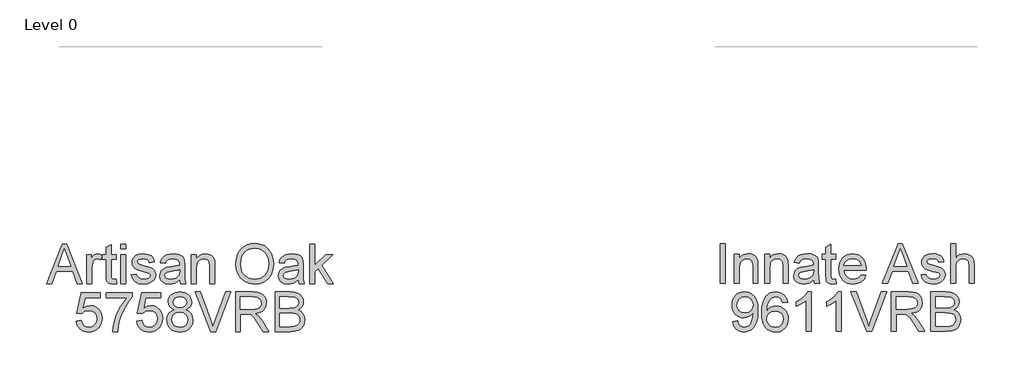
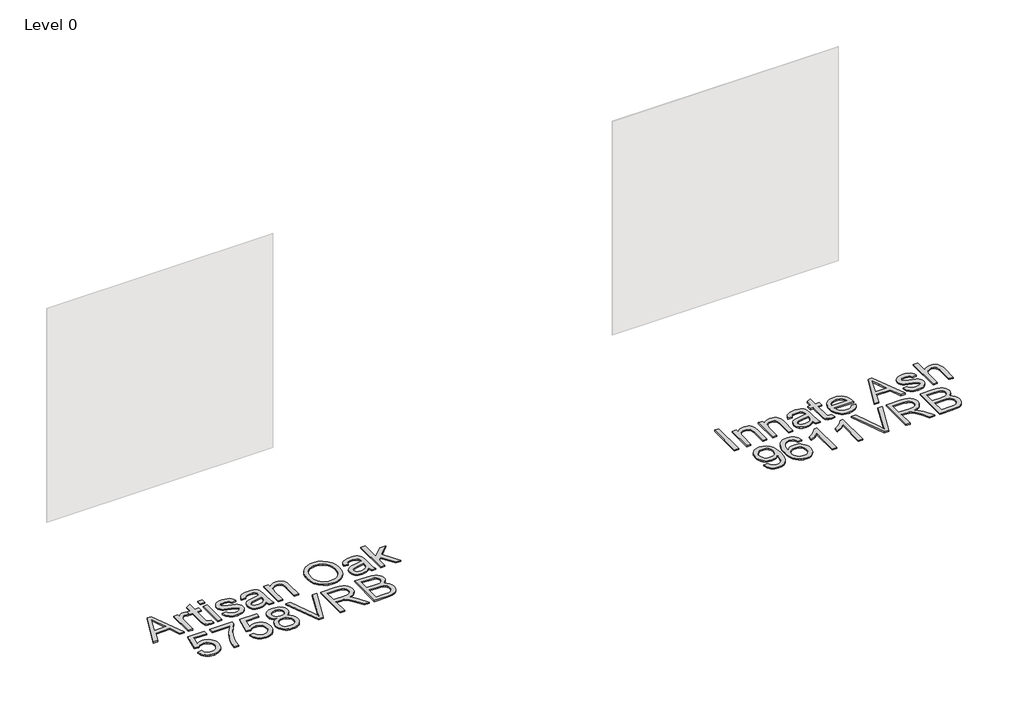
# One storey, part 15 of 43: 2 proxies.
"""IFC4 building model written with IfcOpenShell, lengths in millimetres."""

from ifc_helpers import new_model, si_unit, origin, origin_with_axes, place, context, project, spatial, polyline, outline, extrude, element, save

model = new_model("IFC4")

# Units and contexts
model_context = context("Model", 3, world=origin())
ifc_project = project(units=[si_unit("LENGTHUNIT", "METRE", prefix="MILLI")], contexts=[model_context])

# Site, building, storey
site = spatial("IfcSite", under=ifc_project)
building = spatial("IfcBuilding", under=site)
storey = spatial("IfcBuildingStorey", under=building, Name="Level 0", Elevation=0.0)

# Proxies
placement = place(None, origin())
element("IfcBuildingElementProxy", 1, Name="300mm Arial", ObjectType="300mm Arial", at=placement, inside=storey, context=model_context, shape_type="SweptSolid", body=[
    extrude(outline(polyline([(4452.3914105, -42030.0303751), (4572.6888229, -41728.6614447), (4604.7681329, -41728.6614447), (4725.0655453, -42030.0303751), (4685.2607134, -42030.0303751), (4650.7533823, -41935.8525844), (4526.6299971, -41935.8525844), (4492.1962424, -42030.0303751), (4452.3914105, -42030.0303751)]), holes=[polyline([(4540.4623601, -41898.181468), (4636.9945957, -41898.181468), (4609.8449044, -41824.0900342), (4588.7284779, -41766.332561), (4569.9664961, -41817.6153111), (4540.4623601, -41898.181468)])]), origin_with_axes(), (0.0, 0.0, 1.0), 10.0),
    extrude(outline(polyline([(4981.9207543, -41998.6132527), (4986.6296439, -42031.1340211), (4958.449883, -42034.7392647), (4940.368483, -42033.1757662), (4926.8856079, -42028.4852707), (4917.3574642, -42021.2563895), (4911.1402585, -42012.0777338), (4907.7189559, -41996.3139903), (4906.5785217, -41969.3298459), (4906.5785217, -41846.3836831), (4878.3251845, -41846.3836831), (4878.3251845, -41815.6287483), (4878.3251845, -41808.7125668), (4906.5785217, -41808.7125668), (4906.5785217, -41754.9282191), (4944.249638, -41732.781723), (4944.249638, -41808.7125668), (4981.9207543, -41808.7125668), (4981.9207543, -41846.3836831), (4944.249638, -41846.3836831), (4944.249638, -41968.2261999), (4946.2362008, -41987.6503693), (4952.6741357, -41994.5297626), (4965.5132173, -41997.0681484), (4981.9207543, -41998.6132527)])), origin_with_axes(), (0.0, 0.0, 1.0), 10.0),
    extrude(outline(polyline([(4760.602946, -42030.0303751), (4760.602946, -41808.7125668), (4793.5651728, -41808.7125668), (4793.5651728, -41841.4540644), (4805.7420668, -41822.4713534), (4816.9624677, -41811.2877408), (4828.2196567, -41805.8246932), (4840.5069154, -41804.0036773), (4859.2688971, -41806.909945), (4878.3251845, -41815.6287483), (4865.7436203, -41849.4003155), (4852.4998684, -41843.6061741), (4839.2561166, -41841.6747936), (4828.0081246, -41843.5325977), (4817.9557491, -41849.1060099), (4809.834754, -41857.971966), (4804.3809035, -41869.7074016), (4799.8007726, -41890.7502517), (4798.2740623, -41913.7060882), (4798.2740623, -42030.0303751), (4760.602946, -42030.0303751)])), origin_with_axes(), (0.0, 0.0, 1.0), 10.0),
    extrude(outline(polyline([(5019.5918706, -41766.332561), (5019.5918706, -41728.6614447), (5057.2629869, -41728.6614447), (5057.2629869, -41766.332561), (5019.5918706, -41766.332561)])), origin_with_axes(), (0.0, 0.0, 1.0), 10.0),
    extrude(outline(polyline([(5019.5918706, -42030.0303751), (5019.5918706, -41808.7125668), (5057.2629869, -41808.7125668), (5057.2629869, -42030.0303751), (5019.5918706, -42030.0303751)])), origin_with_axes(), (0.0, 0.0, 1.0), 10.0),
    extrude(outline(polyline([(5099.6429928, -41964.1059216), (5137.3141091, -41959.397032), (5143.2554033, -41975.5102634), (5154.7517157, -41987.3560637), (5171.8766225, -41994.6401272), (5194.7037003, -41997.0681484), (5217.2548666, -41994.8424623), (5233.1105806, -41988.1654041), (5242.4915715, -41978.4901076), (5245.6185685, -41967.2697067), (5242.4731774, -41957.6679867), (5233.0370042, -41950.347135), (5194.2622419, -41939.6049807), (5137.5348383, -41921.1740927), (5123.1782434, -41911.9126635), (5112.77638, -41899.652996), (5106.4580067, -41885.1768395), (5104.3518823, -41869.2659432), (5106.0441395, -41854.6702251), (5111.120911, -41841.196547), (5119.1223444, -41829.3783379), (5129.5885872, -41819.7490267), (5153.5377051, -41808.6022022), (5185.9481089, -41804.0036773), (5210.4674438, -41805.8522843), (5231.7862055, -41811.3981054), (5248.9295064, -41820.0985146), (5260.9224595, -41831.4108859), (5268.8687106, -41846.172151), (5273.8719057, -41865.2192413), (5236.2007894, -41869.9281308), (5231.4459146, -41858.0731335), (5222.0373326, -41849.1427981), (5207.8830728, -41843.5417947), (5188.8911648, -41841.6747936), (5167.2597035, -41843.4590213), (5152.8387293, -41848.8117043), (5144.7269313, -41856.5372262), (5142.0229986, -41865.4399705), (5146.511159, -41876.4028539), (5160.5642512, -41884.716987), (5193.0114432, -41892.7368145), (5248.304107, -41910.4687267), (5262.9090222, -41918.9484067), (5273.9822703, -41930.5550836), (5280.9628312, -41945.3255457), (5283.2896848, -41963.2965812), (5280.558161, -41981.874622), (5272.3635895, -41999.3490167), (5259.0186701, -42014.3494051), (5240.8361025, -42025.5054266), (5218.8735474, -42032.4308051), (5194.1886655, -42034.7392647), (5156.2048495, -42030.2878925), (5128.4849412, -42016.9337761), (5109.9804769, -41994.8240682), (5099.6429928, -41964.1059216)])), origin_with_axes(), (0.0, 0.0, 1.0), 10.0),
    extrude(outline(polyline([(5466.9363768, -42001.7770379), (5448.9377502, -42017.2096876), (5430.4056947, -42027.3080484), (5410.917146, -42032.8814606), (5390.0490398, -42034.7392647), (5358.567538, -42030.2694984), (5335.3449871, -42016.8601997), (5321.0251804, -41996.4979313), (5316.2519115, -41971.1692559), (5318.0545333, -41955.5526652), (5323.4623987, -41941.3708143), (5331.8041229, -41929.2307084), (5342.4083214, -41919.739353), (5368.7854605, -41907.3785179), (5401.3798052, -41901.7131352), (5439.8970501, -41895.7534469), (5466.7156476, -41888.763689), (5466.9363768, -41880.3759795), (5464.3428087, -41863.5637723), (5456.5621045, -41852.5641006), (5439.1612861, -41844.3971204), (5414.9178627, -41841.6747936), (5392.4770609, -41843.4866124), (5376.805288, -41848.9220689), (5366.118316, -41858.9744444), (5358.6319174, -41874.6370204), (5320.9608011, -41869.9281308), (5327.4999036, -41849.3267391), (5337.2579735, -41833.1399313), (5351.1455188, -41820.7607022), (5370.0730474, -41811.5820464), (5393.222022, -41805.8982696), (5419.773905, -41804.0036773), (5445.2405361, -41805.6775404), (5465.4280606, -41810.6991296), (5480.6491781, -41818.2499075), (5491.2165885, -41827.5113368), (5498.2247405, -41838.9616639), (5502.7680831, -41853.0791354), (5504.6074931, -41886.0413622), (5504.6074931, -41932.9095284), (5506.5204795, -41998.3557353), (5514.0252722, -42030.0303751), (5476.3541558, -42030.0303751), (5466.9363768, -42001.7770379)]), holes=[polyline([(5466.9363768, -41926.4348053), (5406.1622712, -41937.9862999), (5373.7518674, -41944.093141), (5359.0733758, -41954.0259549), (5353.9230279, -41968.5205055), (5356.7281281, -41979.7225123), (5365.1434287, -41988.9011681), (5378.9849888, -41995.0264033), (5398.0688673, -41997.0681484), (5418.302377, -41994.8148711), (5436.181442, -41988.0550395), (5450.6759926, -41978.0946345), (5460.7559593, -41966.2396372), (5465.2257255, -41954.0259549), (5466.7156476, -41937.1033831), (5466.9363768, -41926.4348053)])]), origin_with_axes(), (0.0, 0.0, 1.0), 10.0),
    extrude(outline(polyline([(5556.405278, -42030.0303751), (5556.405278, -41808.7125668), (5594.0763943, -41808.7125668), (5594.0763943, -41839.6146544), (5607.1637963, -41824.0348519), (5622.8815545, -41812.9064216), (5641.229669, -41806.2293634), (5662.2081398, -41804.0036773), (5680.7769835, -41805.797102), (5697.7823287, -41811.1773762), (5711.9641797, -41819.4731152), (5722.0625404, -41830.0129343), (5733.3565177, -41857.7144486), (5735.3430805, -41894.1347661), (5735.3430805, -42030.0303751), (5697.6719641, -42030.0303751), (5697.6719641, -41899.2115376), (5693.3309566, -41865.8814289), (5687.325283, -41855.9578121), (5677.9902774, -41848.2598813), (5666.0249155, -41843.3210655), (5652.1281731, -41841.6747936), (5630.0644505, -41845.3720076), (5611.2564835, -41856.4636498), (5603.7401945, -41865.5181454), (5598.3714166, -41877.892776), (5594.0763943, -41912.6024423), (5594.0763943, -42030.0303751), (5556.405278, -42030.0303751)])), origin_with_axes(), (0.0, 0.0, 1.0), 10.0),
    extrude(outline(polyline([(5895.4453248, -41883.3190354), (5897.9561194, -41847.9701742), (5905.4885032, -41816.677212), (5918.0424763, -41789.4401488), (5935.6180386, -41766.2589846), (5957.162128, -41747.7499217), (5981.6216821, -41734.5291625), (6008.9967011, -41726.596707), (6039.2871849, -41723.9525551), (6078.8161053, -41728.9189621), (6114.2615355, -41743.8181829), (6143.6920951, -41767.6017539), (6165.1764036, -41799.2212113), (6178.3097908, -41837.149845), (6182.6875866, -41879.8609447), (6178.0798646, -41923.1422614), (6164.2566986, -41961.604324), (6141.9814438, -41993.2789638), (6112.0174553, -42016.1980121), (6076.8755277, -42030.1039515), (6039.0664557, -42034.7392647), (5998.93053, -42029.6165079), (5963.2827647, -42014.2482375), (5933.9257815, -41990.0232081), (5912.6622021, -41958.3301743), (5899.7495441, -41921.8638715), (5895.4453248, -41883.3190354)]), holes=[polyline([(5933.1164411, -41883.6869174), (5934.999537, -41908.6615064), (5940.6488249, -41930.8309951), (5950.0643047, -41950.1953836), (5963.2459765, -41966.754672), (5979.2695366, -41980.0168179), (5997.2106817, -41989.4897793), (6017.0694116, -41995.1735561), (6038.8457265, -41997.0681484), (6060.9945218, -41995.155162), (6081.0877766, -41989.4162029), (6099.1254906, -41979.851271), (6115.1076641, -41966.4603664), (6128.1927668, -41949.5515902), (6137.5392687, -41929.4330435), (6143.1471699, -41906.1047265), (6145.0164703, -41879.5666391), (6141.8158969, -41846.2181362), (6132.2141769, -41817.3945819), (6116.4596304, -41793.8225431), (6094.8005779, -41776.2285866), (6068.6717592, -41765.2749002), (6039.5079141, -41761.6236714), (6018.4880566, -41763.3826072), (5998.9857123, -41768.6594146), (5981.0008813, -41777.4540935), (5964.5335634, -41789.7666441), (5950.7885724, -41806.1902759), (5940.9707217, -41827.3181987), (5935.0800112, -41853.1504126), (5933.1164411, -41883.6869174)])]), origin_with_axes(), (0.0, 0.0, 1.0), 10.0),
    extrude(outline(polyline([(6371.0431681, -42001.7770379), (6353.0445415, -42017.2096876), (6334.512486, -42027.3080484), (6315.0239373, -42032.8814606), (6294.1558311, -42034.7392647), (6262.6743294, -42030.2694984), (6239.4517784, -42016.8601997), (6225.1319718, -41996.4979313), (6220.3587029, -41971.1692559), (6222.1613247, -41955.5526652), (6227.56919, -41941.3708143), (6235.9109142, -41929.2307084), (6246.5151128, -41919.739353), (6272.8922518, -41907.3785179), (6305.4865966, -41901.7131352), (6344.0038415, -41895.7534469), (6370.8224389, -41888.763689), (6371.0431681, -41880.3759795), (6368.4496001, -41863.5637723), (6360.6688959, -41852.5641006), (6343.2680775, -41844.3971204), (6319.024654, -41841.6747936), (6296.5838523, -41843.4866124), (6280.9120793, -41848.9220689), (6270.2251073, -41858.9744444), (6262.7387087, -41874.6370204), (6225.0675924, -41869.9281308), (6231.6066949, -41849.3267391), (6241.3647648, -41833.1399313), (6255.2523101, -41820.7607022), (6274.1798388, -41811.5820464), (6297.3288133, -41805.8982696), (6323.8806963, -41804.0036773), (6349.3473275, -41805.6775404), (6369.5348519, -41810.6991296), (6384.7559695, -41818.2499075), (6395.3233798, -41827.5113368), (6402.3315318, -41838.9616639), (6406.8748744, -41853.0791354), (6408.7142844, -41886.0413622), (6408.7142844, -41932.9095284), (6410.6272708, -41998.3557353), (6418.1320635, -42030.0303751), (6380.4609472, -42030.0303751), (6371.0431681, -42001.7770379)]), holes=[polyline([(6371.0431681, -41926.4348053), (6310.2690625, -41937.9862999), (6277.8586587, -41944.093141), (6263.1801671, -41954.0259549), (6258.0298192, -41968.5205055), (6260.8349194, -41979.7225123), (6269.2502201, -41988.9011681), (6283.0917801, -41995.0264033), (6302.1756586, -41997.0681484), (6322.4091684, -41994.8148711), (6340.2882333, -41988.0550395), (6354.7827839, -41978.0946345), (6364.8627506, -41966.2396372), (6369.3325168, -41954.0259549), (6370.8224389, -41937.1033831), (6371.0431681, -41926.4348053)])]), origin_with_axes(), (0.0, 0.0, 1.0), 10.0),
    extrude(outline(polyline([(6460.5120693, -42030.0303751), (6460.5120693, -41728.6614447), (6498.1831857, -41728.6614447), (6498.1831857, -41890.6030989), (6582.6488917, -41808.7125668), (6634.7409823, -41808.7125668), (6549.2452066, -41891.6331685), (6639.4498718, -42030.0303751), (6595.4511852, -42030.0303751), (6522.2426681, -41917.8263666), (6498.1831857, -41941.1500851), (6498.1831857, -42030.0303751), (6460.5120693, -42030.0303751)])), origin_with_axes(), (0.0, 0.0, 1.0), 10.0),
    extrude(outline(polyline([(4678.1973791, -42315.9037065), (4715.8684954, -42311.194817), (4722.7846769, -42333.8103626), (4734.8512064, -42350.0063675), (4752.0129014, -42359.7460433), (4774.2145799, -42362.9926019), (4801.2171183, -42358.4768504), (4821.450628, -42344.9295959), (4834.0873746, -42323.914337), (4838.2996234, -42296.994572), (4834.354089, -42271.6475025), (4822.5174858, -42252.2601213), (4802.6978433, -42239.9544686), (4774.803191, -42235.8525844), (4756.5286529, -42237.4896592), (4741.7305997, -42242.4008839), (4720.577385, -42259.397032), (4682.9062687, -42254.6881425), (4715.8684954, -42099.2947877), (4861.8440711, -42099.2947877), (4861.8440711, -42136.9659041), (4746.3291246, -42136.9659041), (4730.2158932, -42219.9600822), (4757.1264612, -42203.6261216), (4785.3246161, -42198.181468), (4803.6704314, -42199.8691267), (4820.521726, -42204.9321027), (4835.8785, -42213.3703959), (4849.7407535, -42225.1840065), (4861.2163725, -42239.650966), (4869.4132432, -42256.0493059), (4874.3313656, -42274.3790263), (4875.9707397, -42294.6401272), (4870.0662337, -42332.3112435), (4862.6856012, -42349.1050566), (4852.3527156, -42364.5377063), (4836.6993367, -42380.3428365), (4818.4339957, -42391.6322152), (4797.5566924, -42398.4058424), (4774.0674271, -42400.6637182), (4737.0676954, -42394.8603797), (4721.3890246, -42387.6062066), (4707.5911505, -42377.4503643), (4696.110933, -42364.8986905), (4687.3852319, -42350.4570229), (4678.1973791, -42315.9037065)])), origin_with_axes(), (0.0, 0.0, 1.0), 10.0),
    extrude(outline(polyline([(4908.9329665, -42136.9659041), (4908.9329665, -42099.2947877), (5106.7063271, -42099.2947877), (5106.7063271, -42129.7554169), (5078.5173692, -42165.4307734), (5050.6043228, -42210.7998205), (5025.9838203, -42261.7238857), (5007.672494, -42314.0642965), (4998.6961733, -42353.2253349), (4993.6929782, -42395.9548287), (4956.0218619, -42395.9548287), (4960.096155, -42357.1248841), (4970.9946591, -42310.9740878), (4988.4230686, -42262.0549795), (5012.0870779, -42214.9200988), (5039.7150158, -42172.3101667), (5069.0352108, -42136.9659041), (4908.9329665, -42136.9659041)])), origin_with_axes(), (0.0, 0.0, 1.0), 10.0),
    extrude(outline(polyline([(5139.6685539, -42315.9037065), (5177.3396702, -42311.194817), (5184.2558517, -42333.8103626), (5196.3223811, -42350.0063675), (5213.4840762, -42359.7460433), (5235.6857546, -42362.9926019), (5262.6882931, -42358.4768504), (5282.9218028, -42344.9295959), (5295.5585493, -42323.914337), (5299.7707982, -42296.994572), (5295.8252638, -42271.6475025), (5283.9886606, -42252.2601213), (5264.1690181, -42239.9544686), (5236.2743658, -42235.8525844), (5217.9998277, -42237.4896592), (5203.2017744, -42242.4008839), (5182.0485597, -42259.397032), (5144.3774434, -42254.6881425), (5177.3396702, -42099.2947877), (5323.3152459, -42099.2947877), (5323.3152459, -42136.9659041), (5207.8002994, -42136.9659041), (5191.687068, -42219.9600822), (5218.5976359, -42203.6261216), (5246.7957909, -42198.181468), (5265.1416061, -42199.8691267), (5281.9929007, -42204.9321027), (5297.3496748, -42213.3703959), (5311.2119282, -42225.1840065), (5322.6875472, -42239.650966), (5330.8844179, -42256.0493059), (5335.8025403, -42274.3790263), (5337.4419145, -42294.6401272), (5331.5374084, -42332.3112435), (5324.1567759, -42349.1050566), (5313.8238904, -42364.5377063), (5298.1705115, -42380.3428365), (5279.9051704, -42391.6322152), (5259.0278672, -42398.4058424), (5235.5386018, -42400.6637182), (5198.5388701, -42394.8603797), (5182.8601994, -42387.6062066), (5169.0623253, -42377.4503643), (5157.5821078, -42364.8986905), (5148.8564067, -42350.4570229), (5139.6685539, -42315.9037065)])), origin_with_axes(), (0.0, 0.0, 1.0), 10.0),
    extrude(outline(polyline([(5425.2921349, -42229.9664724), (5405.1230045, -42220.0336586), (5390.9687448, -42206.5691775), (5382.6086264, -42189.8489409), (5379.8219203, -42170.14886), (5381.3394335, -42154.7851882), (5385.8919732, -42140.6999063), (5393.4795394, -42127.8930143), (5404.102132, -42116.3645123), (5417.2493148, -42106.8363686), (5432.4106515, -42100.0305517), (5468.7757867, -42094.5858982), (5505.3616512, -42100.1593104), (5520.6885348, -42107.1260757), (5534.0380527, -42116.8795471), (5544.8537834, -42128.6333769), (5552.5793053, -42141.6012172), (5557.2146184, -42155.7830681), (5558.7597228, -42171.1789296), (5556.0098049, -42190.244414), (5547.7600511, -42206.6795421), (5533.918491, -42220.0612497), (5514.3931542, -42229.9664724), (5537.5789169, -42241.9134402), (5554.4555034, -42259.5073966), (5564.7470022, -42281.9022131), (5568.1775018, -42308.251761), (5566.4760476, -42327.0413339), (5561.3716849, -42344.2674083), (5552.8644138, -42359.9299843), (5540.9542342, -42374.0290617), (5526.2665455, -42385.6817239), (5509.4267472, -42394.0050541), (5490.4348392, -42398.9990522), (5469.2908215, -42400.6637182), (5448.1468039, -42398.9921544), (5429.1548959, -42393.9774629), (5412.3150975, -42385.6196439), (5397.6274089, -42373.9186971), (5385.7172293, -42359.7207514), (5377.2099581, -42343.8719352), (5372.1055955, -42326.3722485), (5370.4041412, -42307.2216914), (5373.9725966, -42279.851271), (5384.6779627, -42257.3368929), (5401.9684164, -42240.4511093), (5425.2921349, -42229.9664724)]), holes=[polyline([(5417.4930366, -42171.252506), (5420.8315657, -42187.6968312), (5430.847153, -42200.8302184), (5447.245493, -42209.4386571), (5469.7322799, -42212.3081367), (5491.694835, -42209.4570512), (5507.8448546, -42200.9037948), (5517.7776685, -42188.211866), (5521.0886065, -42172.9447632), (5517.6673039, -42157.0982462), (5507.4033962, -42143.9924502), (5491.0326475, -42135.1908734), (5469.2908215, -42132.2570145), (5447.4110399, -42135.1264941), (5431.0678822, -42143.7349328), (5420.886748, -42156.3532852), (5417.4930366, -42171.252506)]), polyline([(5408.0752575, -42305.8973162), (5414.3660397, -42334.2610181), (5423.0756459, -42346.4287151), (5436.6229004, -42355.4878092), (5452.8464964, -42361.1164037), (5469.5851271, -42362.9926019), (5495.2265022, -42359.0470675), (5514.4667305, -42347.2104643), (5526.4964718, -42329.2854141), (5530.5063855, -42307.0745386), (5526.3677131, -42284.4865841), (5513.9516958, -42266.1660608), (5494.270009, -42254.0259549), (5468.3343284, -42249.979253), (5443.0516382, -42253.9707726), (5424.0045479, -42265.9453316), (5412.0575801, -42283.916367), (5408.0752575, -42305.8973162)])]), origin_with_axes(), (0.0, 0.0, 1.0), 10.0),
    extrude(outline(polyline([(5704.2938401, -42395.9548287), (5584.3643096, -42094.5858982), (5624.6841763, -42094.5858982), (5704.9560277, -42311.7098518), (5721.2164118, -42360.6381571), (5737.2560668, -42311.7098518), (5817.7486474, -42094.5858982), (5858.068514, -42094.5858982), (5743.2157552, -42395.9548287), (5704.2938401, -42395.9548287)])), origin_with_axes(), (0.0, 0.0, 1.0), 10.0),
    extrude(outline(polyline([(5893.09088, -42395.9548287), (5893.09088, -42094.5858982), (6022.9532243, -42094.5858982), (6057.8560286, -42096.6184462), (6083.2490833, -42102.7160903), (6101.8087299, -42113.9732794), (6116.2113101, -42131.4844623), (6125.4543452, -42153.1986971), (6128.5353569, -42177.0650415), (6123.4309942, -42206.7531185), (6108.1179062, -42231.364424), (6096.518127, -42241.3938069), (6082.1362403, -42249.4090359), (6045.026144, -42259.397032), (6066.4368761, -42275.5102634), (6096.9710817, -42314.2850257), (6147.2237623, -42395.9548287), (6103.4458048, -42395.9548287), (6064.2295841, -42333.4884659), (6035.9026705, -42292.1385296), (6016.0002546, -42272.6039957), (5998.0844014, -42265.4302968), (5976.2322109, -42264.1059216), (5930.7619963, -42264.1059216), (5930.7619963, -42395.9548287), (5893.09088, -42395.9548287)]), holes=[polyline([(5930.7619963, -42226.4348053), (6015.0805496, -42226.4348053), (6039.2963819, -42225.101233), (6058.0859548, -42221.1005163), (6072.2310175, -42214.1659407), (6082.5133193, -42204.0307918), (6088.7765103, -42191.7711243), (6090.8642406, -42178.4629931), (6086.881918, -42160.0872874), (6074.9349502, -42145.2800371), (6054.3795437, -42135.5127702), (6024.5719051, -42132.2570145), (5930.7619963, -42132.2570145), (5930.7619963, -42226.4348053)])]), origin_with_axes(), (0.0, 0.0, 1.0), 10.0),
    extrude(outline(polyline([(6194.4598104, -42395.9548287), (6194.4598104, -42094.5858982), (6309.4597221, -42094.5858982), (6341.0883767, -42096.8023872), (6365.7824556, -42103.4518543), (6384.7099842, -42114.6998463), (6399.038988, -42130.7119101), (6408.0612939, -42149.5474683), (6411.0687292, -42169.2659432), (6408.5395405, -42187.4117226), (6400.9519743, -42204.4722502), (6388.2508484, -42219.3990621), (6370.3809805, -42231.1436948), (6391.7273333, -42242.2905193), (6407.5002738, -42259.2498792), (6417.2399497, -42280.8997347), (6420.4865083, -42306.1180454), (6418.2700193, -42327.1333044), (6411.6205522, -42346.6218531), (6401.6969354, -42363.194937), (6389.6579971, -42375.4638015), (6374.9151261, -42384.3481517), (6356.8797113, -42390.7676925), (6308.5768053, -42395.9548287), (6194.4598104, -42395.9548287)]), holes=[polyline([(6232.1309267, -42217.0170262), (6300.9248598, -42217.0170262), (6341.0975737, -42213.7796646), (6355.159863, -42208.1970554), (6365.2674208, -42199.836937), (6371.3650649, -42188.8280683), (6373.3976129, -42175.2992079), (6371.5030206, -42162.1658207), (6365.8192438, -42150.7246907), (6356.6037998, -42141.7943552), (6344.1142061, -42136.1933519), (6295.7009355, -42132.2570145), (6232.1309267, -42132.2570145), (6232.1309267, -42217.0170262)]), polyline([(6232.1309267, -42358.2837124), (6309.3861457, -42358.2837124), (6337.3451774, -42356.8121844), (6360.9999897, -42348.6084159), (6376.6717626, -42331.8697851), (6381.2794846, -42320.042379), (6382.815392, -42306.4859274), (6381.0127702, -42290.740578), (6375.6049049, -42277.2025206), (6366.1595346, -42266.6167162), (6352.2443982, -42259.7281258), (6332.5351203, -42255.9481383), (6305.7073258, -42254.6881425), (6232.1309267, -42254.6881425), (6232.1309267, -42358.2837124)])]), origin_with_axes(), (0.0, 0.0, 1.0), 10.0),
])
element("IfcBuildingElementProxy", 2, Name="300mm Arial", ObjectType="300mm Arial", at=placement, inside=storey, context=model_context, shape_type="SweptSolid", body=[
    extrude(outline(polyline([(9588.7284779, -42029.0303751), (9588.7284779, -41727.6614447), (9626.3995942, -41727.6614447), (9626.3995942, -42029.0303751), (9588.7284779, -42029.0303751)])), origin_with_axes(), (0.0, 0.0, 1.0), 10.0),
    extrude(outline(polyline([(9697.0329373, -42029.0303751), (9697.0329373, -41807.7125668), (9734.7040536, -41807.7125668), (9734.7040536, -41838.6146544), (9747.7914556, -41823.0348519), (9763.5092138, -41811.9064216), (9781.8573283, -41805.2293634), (9802.8357991, -41803.0036773), (9821.4046428, -41804.797102), (9838.409988, -41810.1773762), (9852.5918389, -41818.4731152), (9862.6901997, -41829.0129343), (9873.9841769, -41856.7144486), (9875.9707397, -41893.1347661), (9875.9707397, -42029.0303751), (9838.2996234, -42029.0303751), (9838.2996234, -41898.2115376), (9833.9586159, -41864.8814289), (9827.9529423, -41854.9578121), (9818.6179367, -41847.2598813), (9806.6525748, -41842.3210655), (9792.7558324, -41840.6747936), (9770.6921098, -41844.3720076), (9751.8841427, -41855.4636498), (9744.3678537, -41864.5181454), (9738.9990759, -41876.892776), (9734.7040536, -41911.6024423), (9734.7040536, -42029.0303751), (9697.0329373, -42029.0303751)])), origin_with_axes(), (0.0, 0.0, 1.0), 10.0),
    extrude(outline(polyline([(9927.7685246, -42029.0303751), (9927.7685246, -41807.7125668), (9965.4396409, -41807.7125668), (9965.4396409, -41838.6146544), (9978.5270429, -41823.0348519), (9994.2448012, -41811.9064216), (10012.5929157, -41805.2293634), (10033.5713865, -41803.0036773), (10052.1402302, -41804.797102), (10069.1455754, -41810.1773762), (10083.3274263, -41818.4731152), (10093.4257871, -41829.0129343), (10104.7197643, -41856.7144486), (10106.7063271, -41893.1347661), (10106.7063271, -42029.0303751), (10069.0352108, -42029.0303751), (10069.0352108, -41898.2115376), (10064.6942032, -41864.8814289), (10058.6885297, -41854.9578121), (10049.353524, -41847.2598813), (10037.3881622, -41842.3210655), (10023.4914198, -41840.6747936), (10001.4276971, -41844.3720076), (9982.6197301, -41855.4636498), (9975.1034411, -41864.5181454), (9969.7346632, -41876.892776), (9965.4396409, -41911.6024423), (9965.4396409, -42029.0303751), (9927.7685246, -42029.0303751)])), origin_with_axes(), (0.0, 0.0, 1.0), 10.0),
    extrude(outline(polyline([(10299.7707982, -42000.7770379), (10281.7721716, -42016.2096876), (10263.240116, -42026.3080484), (10243.7515673, -42031.8814606), (10222.8834612, -42033.7392647), (10191.4019594, -42029.2694984), (10168.1794085, -42015.8601997), (10153.8596018, -41995.4979313), (10149.0863329, -41970.1692559), (10150.8889547, -41954.5526652), (10156.29682, -41940.3708143), (10164.6385443, -41928.2307084), (10175.2427428, -41918.739353), (10201.6198819, -41906.3785179), (10234.2142266, -41900.7131352), (10272.7314715, -41894.7534469), (10299.550069, -41887.763689), (10299.7707982, -41879.3759795), (10297.1772301, -41862.5637723), (10289.3965259, -41851.5641006), (10271.9957075, -41843.3971204), (10247.752284, -41840.6747936), (10225.3114823, -41842.4866124), (10209.6397093, -41847.9220689), (10198.9527374, -41857.9744444), (10191.4663388, -41873.6370204), (10153.7952225, -41868.9281308), (10160.3343249, -41848.3267391), (10170.0923949, -41832.1399313), (10183.9799402, -41819.7607022), (10202.9074688, -41810.5820464), (10226.0564434, -41804.8982696), (10252.6083264, -41803.0036773), (10278.0749575, -41804.6775404), (10298.262482, -41809.6991296), (10313.4835995, -41817.2499075), (10324.0510098, -41826.5113368), (10331.0591619, -41837.9616639), (10335.6025045, -41852.0791354), (10337.4419145, -41885.0413622), (10337.4419145, -41931.9095284), (10339.3549008, -41997.3557353), (10346.8596935, -42029.0303751), (10309.1885772, -42029.0303751), (10299.7707982, -42000.7770379)]), holes=[polyline([(10299.7707982, -41925.4348053), (10238.9966926, -41936.9862999), (10206.5862888, -41943.093141), (10191.9077972, -41953.0259549), (10186.7574492, -41967.5205055), (10189.5625495, -41978.7225123), (10197.9778501, -41987.9011681), (10211.8194102, -41994.0264033), (10230.9032887, -41996.0681484), (10251.1367984, -41993.8148711), (10269.0158634, -41987.0550395), (10283.510414, -41977.0946345), (10293.5903806, -41965.2396372), (10298.0601469, -41953.0259549), (10299.550069, -41936.1033831), (10299.7707982, -41925.4348053)])]), origin_with_axes(), (0.0, 0.0, 1.0), 10.0),
    extrude(outline(polyline([(10469.2908215, -41997.6132527), (10473.9997111, -42030.1340211), (10445.8199503, -42033.7392647), (10427.7385502, -42032.1757662), (10414.2556751, -42027.4852707), (10404.7275314, -42020.2563895), (10398.5103257, -42011.0777338), (10395.0890231, -41995.3139903), (10393.9485889, -41968.3298459), (10393.9485889, -41845.3836831), (10365.6952517, -41845.3836831), (10365.6952517, -41807.7125668), (10393.9485889, -41807.7125668), (10393.9485889, -41753.9282191), (10431.6197052, -41731.781723), (10431.6197052, -41807.7125668), (10469.2908215, -41807.7125668), (10469.2908215, -41845.3836831), (10431.6197052, -41845.3836831), (10431.6197052, -41967.2261999), (10433.606268, -41986.6503693), (10440.0442029, -41993.5297626), (10452.8832846, -41996.0681484), (10469.2908215, -41997.6132527)])), origin_with_axes(), (0.0, 0.0, 1.0), 10.0),
    extrude(outline(polyline([(10661.9138342, -41963.1059216), (10698.8491865, -41967.8148111), (10685.5410554, -41995.6450841), (10664.3050672, -42016.4488109), (10635.6194686, -42029.4166512), (10599.9625062, -42033.7392647), (10576.588204, -42031.8745628), (10555.7614845, -42026.2804572), (10537.4823479, -42016.9569479), (10521.7507941, -42003.9040349), (10509.1002519, -41987.4850016), (10500.0641504, -41968.0631315), (10494.6424895, -41945.6384246), (10492.8352692, -41920.2108809), (10494.6608836, -41893.9211139), (10500.1377268, -41870.7491467), (10509.2657988, -41850.6949794), (10522.0450997, -41833.7586121), (10537.7352667, -41820.3033281), (10555.5959376, -41810.692411), (10575.6271122, -41804.9258607), (10597.8287907, -41803.0036773), (10619.3153984, -41804.9212622), (10638.7464656, -41810.6740169), (10656.1219921, -41820.2619414), (10671.4419779, -41833.6850357), (10683.9476665, -41850.5846148), (10692.8803012, -41870.6019939), (10698.239882, -41893.7371729), (10700.0264089, -41919.9901518), (10699.8056797, -41930.1436948), (10530.5063855, -41930.1436948), (10537.0270939, -41958.3418497), (10552.1746351, -41979.0720002), (10574.0360226, -41991.8191113), (10600.6982702, -41996.0681484), (10620.747839, -41994.0999797), (10637.6336225, -41988.1954737), (10651.355621, -41977.9867483), (10661.9138342, -41963.1059216)]), holes=[polyline([(10530.5063855, -41892.4725785), (10662.3552926, -41892.4725785), (10657.260127, -41872.5701626), (10647.2721308, -41858.3331294), (10625.3095757, -41845.0893775), (10597.6816379, -41840.6747936), (10572.2885831, -41844.1972637), (10551.2917183, -41854.764674), (10536.6960001, -41871.2365903), (10530.5063855, -41892.4725785)])]), origin_with_axes(), (0.0, 0.0, 1.0), 10.0),
    extrude(outline(polyline([(10825.0327109, -42029.0303751), (10945.3301233, -41727.6614447), (10977.4094333, -41727.6614447), (11097.7068457, -42029.0303751), (11057.9020138, -42029.0303751), (11023.3946827, -41934.8525844), (10899.2712975, -41934.8525844), (10864.8375428, -42029.0303751), (10825.0327109, -42029.0303751)]), holes=[polyline([(10913.1036605, -41897.181468), (11009.6358961, -41897.181468), (10982.4862048, -41823.0900342), (10961.3697783, -41765.332561), (10942.6077965, -41816.6153111), (10913.1036605, -41897.181468)])]), origin_with_axes(), (0.0, 0.0, 1.0), 10.0),
    extrude(outline(polyline([(11119.1175778, -41963.1059216), (11156.7886941, -41958.397032), (11162.7299884, -41974.5102634), (11174.2263007, -41986.3560637), (11191.3512076, -41993.6401272), (11214.1782854, -41996.0681484), (11236.7294517, -41993.8424623), (11252.5851657, -41987.1654041), (11261.9661565, -41977.4901076), (11265.0931535, -41966.2697067), (11261.9477624, -41956.6679867), (11252.5115893, -41949.347135), (11213.736827, -41938.6049807), (11157.0094233, -41920.1740927), (11142.6528285, -41910.9126635), (11132.2509651, -41898.652996), (11125.9325918, -41884.1768395), (11123.8264674, -41868.2659432), (11125.5187245, -41853.6702251), (11130.5954961, -41840.196547), (11138.5969295, -41828.3783379), (11149.0631722, -41818.7490267), (11173.0122901, -41807.6022022), (11205.4226939, -41803.0036773), (11229.9420289, -41804.8522843), (11251.2607905, -41810.3981054), (11268.4040915, -41819.0985146), (11280.3970445, -41830.4108859), (11288.3432956, -41845.172151), (11293.3464907, -41864.2192413), (11255.6753744, -41868.9281308), (11250.9204996, -41857.0731335), (11241.5119176, -41848.1427981), (11227.3576579, -41842.5417947), (11208.3657499, -41840.6747936), (11186.7342885, -41842.4590213), (11172.3133143, -41847.8117043), (11164.2015163, -41855.5372262), (11161.4975837, -41864.4399705), (11165.985744, -41875.4028539), (11180.0388362, -41883.716987), (11212.4860282, -41891.7368145), (11267.7786921, -41909.4687267), (11282.3836073, -41917.9484067), (11293.4568553, -41929.5550836), (11300.4374162, -41944.3255457), (11302.7642698, -41962.2965812), (11300.032746, -41980.874622), (11291.8381746, -41998.3490167), (11278.4932552, -42013.3494051), (11260.3106876, -42024.5054266), (11238.3481325, -42031.4308051), (11213.6632506, -42033.7392647), (11175.6794346, -42029.2878925), (11147.9595262, -42015.9337761), (11129.4550619, -41993.8240682), (11119.1175778, -41963.1059216)])), origin_with_axes(), (0.0, 0.0, 1.0), 10.0),
    extrude(outline(polyline([(11345.1442757, -42029.0303751), (11345.1442757, -41727.6614447), (11382.815392, -41727.6614447), (11382.815392, -41838.4675016), (11396.6523535, -41822.9520785), (11412.1907693, -41811.8696334), (11429.4306393, -41805.2201663), (11448.3719635, -41803.0036773), (11471.1254649, -41805.4225014), (11490.678393, -41812.6789738), (11506.0742544, -41824.2028773), (11516.3565562, -41839.4239948), (11522.1506976, -41860.3380862), (11524.0820781, -41888.9409114), (11524.0820781, -42029.0303751), (11486.4109618, -42029.0303751), (11486.4109618, -41892.8404605), (11483.4127235, -41869.2592246), (11474.4180088, -41853.109205), (11459.9234582, -41843.7833964), (11440.4257124, -41840.6747936), (11424.5056191, -41842.771721), (11409.560413, -41849.0625031), (11397.1811839, -41858.9401347), (11388.9590213, -41871.7976104), (11384.3512993, -41888.8857291), (11382.815392, -41911.4552895), (11382.815392, -42029.0303751), (11345.1442757, -42029.0303751)])), origin_with_axes(), (0.0, 0.0, 1.0), 10.0),
    extrude(outline(polyline([(9682.9062687, -42319.612596), (9720.577385, -42314.9037065), (9727.0153199, -42336.2868475), (9737.4999567, -42350.8457774), (9751.7737781, -42359.2058958), (9769.5792667, -42361.9926019), (9785.5545424, -42360.1991772), (9800.0766841, -42354.818903), (9812.1432136, -42346.4403905), (9820.7516522, -42335.652251), (9833.0756991, -42302.9107535), (9838.5203526, -42259.2063724), (9838.2996234, -42251.8487325), (9825.2490096, -42267.7780229), (9808.170088, -42280.3963754), (9788.2952632, -42288.618538), (9766.85694, -42291.3592588), (9748.9617801, -42289.6853957), (9732.5059587, -42284.6638065), (9717.4894755, -42276.2944911), (9703.9123306, -42264.5774496), (9692.6620393, -42250.1242857), (9684.626117, -42233.5466033), (9679.8045636, -42214.8444023), (9678.1973791, -42194.0176829), (9679.8827385, -42172.4965862), (9684.9388167, -42153.1827814), (9693.3656136, -42136.0762687), (9705.1631294, -42121.1770478), (9719.4990309, -42109.1059199), (9735.5409851, -42100.4836856), (9753.2889921, -42095.3103451), (9772.7430519, -42093.5858982), (9800.8400393, -42097.5222356), (9826.417035, -42109.3312476), (9847.809373, -42128.4243232), (9863.3523873, -42154.212851), (9872.8161516, -42189.8606163), (9875.9707397, -42238.5314043), (9872.8253487, -42290.1360512), (9863.3891755, -42330.0236565), (9847.7449936, -42359.9968421), (9825.9755766, -42381.8582296), (9799.0190234, -42395.2123461), (9767.8134331, -42399.6637182), (9735.6053645, -42394.4122027), (9709.9088071, -42378.6576563), (9691.9377716, -42353.3933603), (9682.9062687, -42319.612596)]), holes=[polyline([(9838.2996234, -42193.1347661), (9834.2345274, -42167.6037556), (9822.0392392, -42147.9588571), (9803.1117106, -42135.4324752), (9778.849893, -42131.2570145), (9753.6867645, -42135.7543719), (9733.5268312, -42149.2464441), (9720.2830794, -42169.8938211), (9715.8684954, -42195.8570929), (9720.0439561, -42219.1348261), (9732.570338, -42237.6116993), (9752.2336306, -42249.6690317), (9777.8198234, -42253.6881425), (9801.8885029, -42249.6690317), (9821.266687, -42237.6116993), (9834.0413893, -42218.4542444), (9838.2996234, -42193.1347661)])]), origin_with_axes(), (0.0, 0.0, 1.0), 10.0),
    extrude(outline(polyline([(10101.9974376, -42173.6370204), (10064.3263213, -42178.3459099), (10058.2562683, -42159.6758986), (10050.0524998, -42146.9287875), (10032.9643812, -42135.1749578), (10012.3078071, -42131.2570145), (9994.7966242, -42133.5378829), (9978.3155108, -42140.380488), (9964.161251, -42154.7922652), (9952.6005593, -42174.6303017), (9944.792264, -42202.6905009), (9941.8951933, -42241.7687659), (9957.0059462, -42224.1380212), (9975.1149374, -42211.7128069), (9995.2104914, -42204.3459699), (10016.2809327, -42201.8903576), (10034.3807268, -42203.5688192), (10051.0825694, -42208.604204), (10066.3864604, -42216.996512), (10080.2923998, -42228.7457432), (10091.848493, -42243.1529219), (10100.1028453, -42259.5190721), (10105.0554566, -42277.844194), (10106.7063271, -42298.1282875), (10103.5977242, -42325.1032348), (10094.2719157, -42350.1100134), (10079.5014536, -42371.3184105), (10060.0588901, -42386.898213), (10036.8271421, -42396.4723419), (10010.6891264, -42399.6637182), (9988.2322298, -42397.5483967), (9967.9504356, -42391.2024323), (9949.8437436, -42380.6258249), (9933.912154, -42365.8185746), (9920.9236203, -42346.155282), (9911.6460962, -42321.0105476), (9906.0795818, -42290.3843715), (9904.224077, -42254.2767537), (9906.2842161, -42213.7959387), (9912.4646336, -42179.2472208), (9922.7653295, -42150.6306001), (9937.1863037, -42127.9460766), (9952.81669, -42112.9134985), (9970.9394768, -42102.1759428), (9991.5546641, -42095.7334094), (10014.6622519, -42093.5858982), (10047.7164492, -42098.901793), (10074.1855587, -42114.8494775), (10092.7268113, -42140.1781529), (10101.9974376, -42173.6370204)]), holes=[polyline([(9941.8951933, -42297.5396763), (9944.0748941, -42314.2323219), (9950.6139965, -42330.1708093), (9960.7675396, -42343.8744136), (9973.7905622, -42353.8624098), (9989.5083205, -42359.9600539), (10007.7460704, -42361.9926019), (10032.6056962, -42357.780353), (10052.1494272, -42345.1436065), (10064.8137649, -42325.2779788), (10069.0352108, -42299.3790863), (10064.8689472, -42274.5194605), (10052.3701564, -42255.5643407), (10032.4953316, -42243.5621906), (10006.200966, -42239.5614739), (9981.3781284, -42243.5621906), (9960.6203868, -42255.5643407), (9946.5764916, -42274.059608), (9941.8951933, -42297.5396763)])]), origin_with_axes(), (0.0, 0.0, 1.0), 10.0),
    extrude(outline(polyline([(10280.93524, -42394.9548287), (10243.2641237, -42394.9548287), (10243.2641237, -42160.0989629), (10207.5795702, -42185.5196088), (10167.9218911, -42204.539108), (10167.9218911, -42168.9281308), (10197.5088006, -42152.8332935), (10223.1409786, -42133.6850357), (10243.3468972, -42113.3227672), (10256.6550283, -42093.5858982), (10280.93524, -42093.5858982), (10280.93524, -42394.9548287)])), origin_with_axes(), (0.0, 0.0, 1.0), 10.0),
    extrude(outline(polyline([(10511.6708274, -42394.9548287), (10473.9997111, -42394.9548287), (10473.9997111, -42160.0989629), (10438.3151575, -42185.5196088), (10398.6574785, -42204.539108), (10398.6574785, -42168.9281308), (10428.2443879, -42152.8332935), (10453.8765659, -42133.6850357), (10474.0824845, -42113.3227672), (10487.3906157, -42093.5858982), (10511.6708274, -42093.5858982), (10511.6708274, -42394.9548287)])), origin_with_axes(), (0.0, 0.0, 1.0), 10.0),
    extrude(outline(polyline([(10704.2938401, -42394.9548287), (10584.3643096, -42093.5858982), (10624.6841763, -42093.5858982), (10704.9560277, -42310.7098518), (10721.2164118, -42359.6381571), (10737.2560668, -42310.7098518), (10817.7486474, -42093.5858982), (10858.068514, -42093.5858982), (10743.2157552, -42394.9548287), (10704.2938401, -42394.9548287)])), origin_with_axes(), (0.0, 0.0, 1.0), 10.0),
    extrude(outline(polyline([(10893.09088, -42394.9548287), (10893.09088, -42093.5858982), (11022.9532243, -42093.5858982), (11057.8560286, -42095.6184462), (11083.2490833, -42101.7160903), (11101.8087299, -42112.9732794), (11116.2113101, -42130.4844623), (11125.4543452, -42152.1986971), (11128.5353569, -42176.0650415), (11123.4309942, -42205.7531185), (11108.1179062, -42230.364424), (11096.518127, -42240.3938069), (11082.1362403, -42248.4090359), (11045.026144, -42258.397032), (11066.4368761, -42274.5102634), (11096.9710817, -42313.2850257), (11147.2237623, -42394.9548287), (11103.4458048, -42394.9548287), (11064.2295841, -42332.4884659), (11035.9026705, -42291.1385296), (11016.0002546, -42271.6039957), (10998.0844014, -42264.4302968), (10976.2322109, -42263.1059216), (10930.7619963, -42263.1059216), (10930.7619963, -42394.9548287), (10893.09088, -42394.9548287)]), holes=[polyline([(10930.7619963, -42225.4348053), (11015.0805496, -42225.4348053), (11039.2963819, -42224.101233), (11058.0859548, -42220.1005163), (11072.2310175, -42213.1659407), (11082.5133193, -42203.0307918), (11088.7765103, -42190.7711243), (11090.8642406, -42177.4629931), (11086.881918, -42159.0872874), (11074.9349502, -42144.2800371), (11054.3795437, -42134.5127702), (11024.5719051, -42131.2570145), (10930.7619963, -42131.2570145), (10930.7619963, -42225.4348053)])]), origin_with_axes(), (0.0, 0.0, 1.0), 10.0),
    extrude(outline(polyline([(11194.4598104, -42394.9548287), (11194.4598104, -42093.5858982), (11309.4597221, -42093.5858982), (11341.0883767, -42095.8023872), (11365.7824556, -42102.4518543), (11384.7099842, -42113.6998463), (11399.038988, -42129.7119101), (11408.0612939, -42148.5474683), (11411.0687292, -42168.2659432), (11408.5395405, -42186.4117226), (11400.9519743, -42203.4722502), (11388.2508484, -42218.3990621), (11370.3809805, -42230.1436948), (11391.7273333, -42241.2905193), (11407.5002738, -42258.2498792), (11417.2399497, -42279.8997347), (11420.4865083, -42305.1180454), (11418.2700193, -42326.1333044), (11411.6205522, -42345.6218531), (11401.6969354, -42362.194937), (11389.6579971, -42374.4638015), (11374.9151261, -42383.3481517), (11356.8797113, -42389.7676925), (11308.5768053, -42394.9548287), (11194.4598104, -42394.9548287)]), holes=[polyline([(11232.1309267, -42216.0170262), (11300.9248598, -42216.0170262), (11341.0975737, -42212.7796646), (11355.159863, -42207.1970554), (11365.2674208, -42198.836937), (11371.3650649, -42187.8280683), (11373.3976129, -42174.2992079), (11371.5030206, -42161.1658207), (11365.8192438, -42149.7246907), (11356.6037998, -42140.7943552), (11344.1142061, -42135.1933519), (11295.7009355, -42131.2570145), (11232.1309267, -42131.2570145), (11232.1309267, -42216.0170262)]), polyline([(11232.1309267, -42357.2837124), (11309.3861457, -42357.2837124), (11337.3451774, -42355.8121844), (11360.9999897, -42347.6084159), (11376.6717626, -42330.8697851), (11381.2794846, -42319.042379), (11382.815392, -42305.4859274), (11381.0127702, -42289.740578), (11375.6049049, -42276.2025206), (11366.1595346, -42265.6167162), (11352.2443982, -42258.7281258), (11332.5351203, -42254.9481383), (11305.7073258, -42253.6881425), (11232.1309267, -42253.6881425), (11232.1309267, -42357.2837124)])]), origin_with_axes(), (0.0, 0.0, 1.0), 10.0),
])

save(model, "model.ifc")
